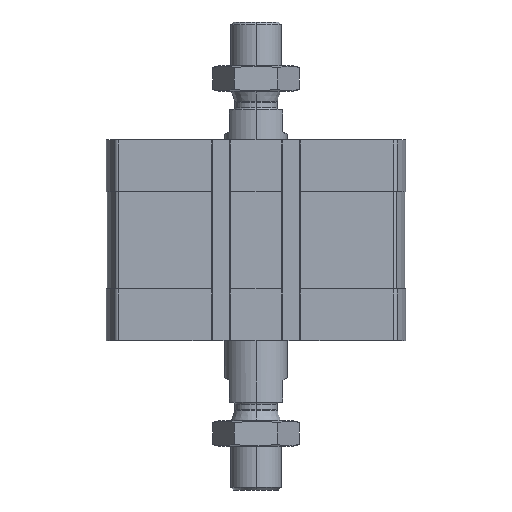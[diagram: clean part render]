
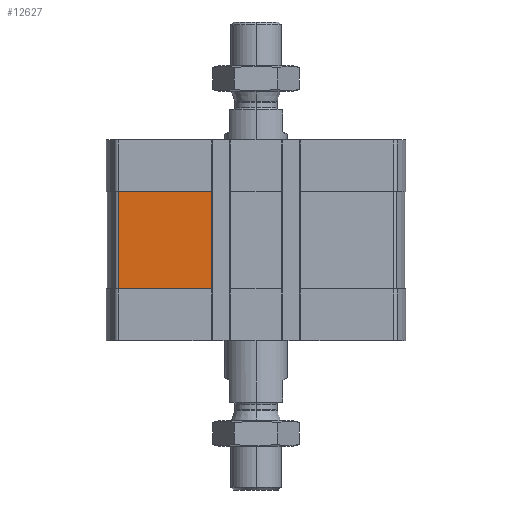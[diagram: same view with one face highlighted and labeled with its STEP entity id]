
A CAD part, left-side view. The second image highlights one B-rep face of the part: STEP entity #12627.
In plain terms, the highlighted planar face has unit normal (-1, 0, 0).
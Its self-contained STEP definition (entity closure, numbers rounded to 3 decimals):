
#6 = VERTEX_POINT ( 'NONE', #3645 ) ;
#502 = DIRECTION ( 'NONE',  ( 0., -1., 0. ) ) ;
#707 = ORIENTED_EDGE ( 'NONE', *, *, #11630, .F. ) ;
#1927 = CARTESIAN_POINT ( 'NONE',  ( -47.5, 43.743, -47.5 ) ) ;
#2180 = VERTEX_POINT ( 'NONE', #17503 ) ;
#3547 = VECTOR ( 'NONE', #4579, 1000. ) ;
#3602 = PLANE ( 'NONE',  #4391 ) ;
#3645 = CARTESIAN_POINT ( 'NONE',  ( -47.5, 43.743, -47.5 ) ) ;
#3734 = ORIENTED_EDGE ( 'NONE', *, *, #14714, .F. ) ;
#4076 = CARTESIAN_POINT ( 'NONE',  ( -47.5, 14.3, -47.5 ) ) ;
#4391 = AXIS2_PLACEMENT_3D ( 'NONE', #9355, #14656, #6560 ) ;
#4579 = DIRECTION ( 'NONE',  ( 0., 0., 1. ) ) ;
#4816 = VERTEX_POINT ( 'NONE', #11879 ) ;
#6000 = CARTESIAN_POINT ( 'NONE',  ( -47.5, 43.743, -16.5 ) ) ;
#6560 = DIRECTION ( 'NONE',  ( 0., 0., 1. ) ) ;
#7734 = FACE_OUTER_BOUND ( 'NONE', #11306, .T. ) ;
#8575 = DIRECTION ( 'NONE',  ( 0., -1., 0. ) ) ;
#8692 = VECTOR ( 'NONE', #8575, 1000. ) ;
#9355 = CARTESIAN_POINT ( 'NONE',  ( -47.5, 43.743, -47.5 ) ) ;
#9553 = ORIENTED_EDGE ( 'NONE', *, *, #11932, .T. ) ;
#10787 = VECTOR ( 'NONE', #12982, 1000. ) ;
#11306 = EDGE_LOOP ( 'NONE', ( #707, #3734, #9553, #16903 ) ) ;
#11630 = EDGE_CURVE ( 'NONE', #4816, #2180, #12828, .T. ) ;
#11827 = VERTEX_POINT ( 'NONE', #4076 ) ;
#11844 = VECTOR ( 'NONE', #502, 1000. ) ;
#11879 = CARTESIAN_POINT ( 'NONE',  ( -47.5, 43.743, -16.5 ) ) ;
#11932 = EDGE_CURVE ( 'NONE', #6, #11827, #17030, .T. ) ;
#12627 = ADVANCED_FACE ( 'NONE', ( #7734 ), #3602, .T. ) ;
#12828 = LINE ( 'NONE', #6000, #11844 ) ;
#12906 = EDGE_CURVE ( 'NONE', #11827, #2180, #15456, .T. ) ;
#12982 = DIRECTION ( 'NONE',  ( 0., 0., 1. ) ) ;
#14332 = LINE ( 'NONE', #16862, #10787 ) ;
#14656 = DIRECTION ( 'NONE',  ( -1., 0., 0. ) ) ;
#14714 = EDGE_CURVE ( 'NONE', #6, #4816, #14332, .T. ) ;
#15456 = LINE ( 'NONE', #16813, #3547 ) ;
#16813 = CARTESIAN_POINT ( 'NONE',  ( -47.5, 14.3, -47.5 ) ) ;
#16862 = CARTESIAN_POINT ( 'NONE',  ( -47.5, 43.743, -47.5 ) ) ;
#16903 = ORIENTED_EDGE ( 'NONE', *, *, #12906, .T. ) ;
#17030 = LINE ( 'NONE', #1927, #8692 ) ;
#17503 = CARTESIAN_POINT ( 'NONE',  ( -47.5, 14.3, -16.5 ) ) ;
